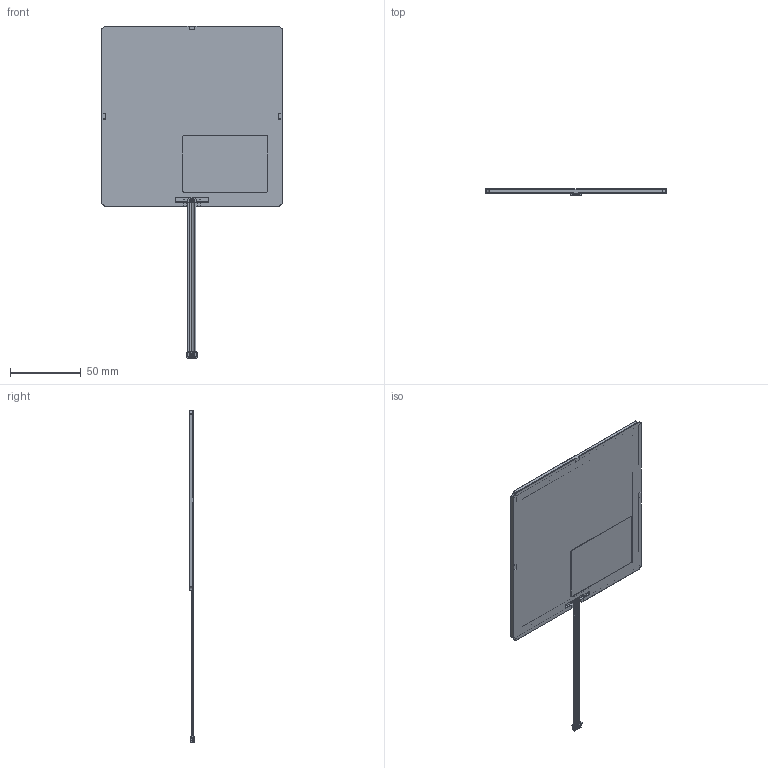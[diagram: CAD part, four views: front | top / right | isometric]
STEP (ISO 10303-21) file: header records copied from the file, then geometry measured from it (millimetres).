
FILE_DESCRIPTION (( 'STEP AP203' ), '1' );
FILE_NAME ('Brite-FL300-wm-B1-PCAL.STEP', '2014-09-22T07:05:22', ( 'Philips' ), ( 'Philips' ), 'SwSTEP 2.0', 'SolidWorks 2013', '' );
FILE_SCHEMA (( 'CONFIG_CONTROL_DESIGN' ));
Length unit declared in the file: millimetre
Products named in the file (1): Brite-FL300-wm-B1-PCAL
Bounding box: 127 x 3.88 x 233.9 mm (x, y, z)
Volume: 34495.1 mm3; surface area: 136445 mm2
Topology: 24 solids, 24 shells, 1280 faces, 3566 edges, 2306 vertices
Faces by surface type: plane 869, cylinder 200, bspline 199, sphere 8, torus 4
Entity records: 51683 total; most frequent: CARTESIAN_POINT 20577, ORIENTED_EDGE 7108, DIRECTION 5363, EDGE_CURVE 3554, VECTOR 2615, LINE 2615, VERTEX_POINT 2306, AXIS2_PLACEMENT_3D 1374
